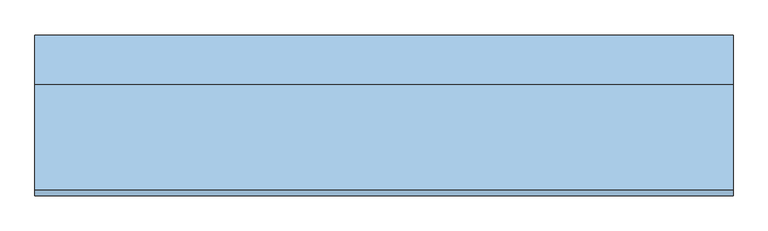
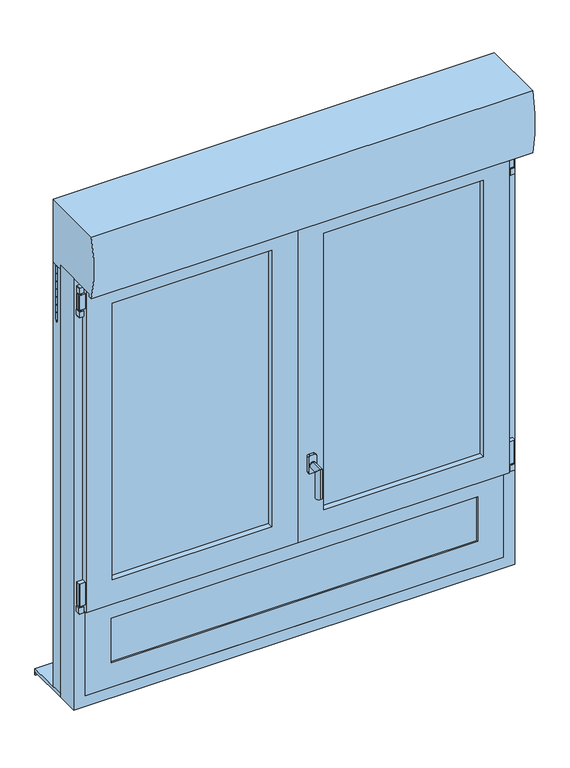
"""IFC4 building model written with IfcOpenShell, lengths in millimetres: window geometry, 7. OF2 ENR + Fixe en B PVC-ALU : OF2 130X165 (LXH) cm."""

from ifc_helpers import new_model, si_unit, point, frame, frame_2d, origin, place, context, project, spatial, polyline, circle_curve, ellipse_curve, trimmed, segment, composite_curve, outline, extrude, faceted_brep, source, transform, mapped, element, save
from ifc_brep_helpers import plane_surface, cylinder_surface, advanced_brep


def window_56807e02(model_context):
    return source(origin(), model_context, "Body", "SolidModel", [
        extrude(outline(composite_curve([segment(polyline([(2201.5409737, -676.4337219), (2219.5732983, -676.4337219)]), True, "CONTINUOUS"), segment(trimmed(circle_curve(frame_2d((2219.5732983, -678.4013973)), 1.9676754), [point((2219.5732983, -676.4337219))], [point((2221.5409737, -678.4013973))], False, "CARTESIAN"), True, "CONTINUOUS"), segment(polyline([(2221.5409737, -678.4013973), (2221.5409737, -689.440105)]), True, "CONTINUOUS"), segment(trimmed(circle_curve(frame_2d((2219.5473568, -689.440105)), 1.9936169), [point((2221.5409737, -689.440105))], [point((2219.5473568, -691.4337219))], False, "CARTESIAN"), True, "CONTINUOUS"), segment(polyline([(2219.5473568, -691.4337219), (2201.5409737, -691.4337219), (2201.5409737, -676.4337219)]), True, "CONTINUOUS")], self_intersect=False)), frame((0.0, -115.0338923, 0.0), z_axis=(0.0, 1.0, 0.0), x_axis=(0.0, 0.0, 1.0)), (0.0, 0.0, 1.0), 15.0),
        extrude(outline(composite_curve([segment(trimmed(circle_curve(frame_2d((-684.1542781, -107.5434807)), 5.0), [point((-679.1542781, -107.5434807))], [point((-689.1542781, -107.5434807))], False, "CARTESIAN"), True, "CONTINUOUS"), segment(trimmed(circle_curve(frame_2d((-684.1542781, -107.5434807)), 5.0), [point((-689.1542781, -107.5434807))], [point((-679.1542781, -107.5434807))], False, "CARTESIAN"), True, "CONTINUOUS")], self_intersect=False)), frame((0.0, 0.0, 2141.5409737), z_axis=(0.0, 0.0, 1.0), x_axis=(1.0, 0.0, 0.0)), (0.0, 0.0, 1.0), 60.0),
        extrude(outline(composite_curve([segment(polyline([(-671.4337219, -100.0434807), (-671.4337219, -115.0434807), (-689.4155445, -115.0434807)]), True, "CONTINUOUS"), segment(trimmed(circle_curve(frame_2d((-689.4155445, -113.0253033)), 2.0181775), [point((-689.4155445, -115.0434807))], [point((-691.4337219, -113.0253033))], False, "CARTESIAN"), True, "CONTINUOUS"), segment(polyline([(-691.4337219, -113.0253033), (-691.4337219, -102.001657)]), True, "CONTINUOUS"), segment(trimmed(circle_curve(frame_2d((-689.4755456, -102.001657)), 1.9581763), [point((-691.4337219, -102.001657))], [point((-689.4755456, -100.0434807))], False, "CARTESIAN"), True, "CONTINUOUS"), segment(polyline([(-689.4755456, -100.0434807), (-671.4337219, -100.0434807)]), True, "CONTINUOUS")], self_intersect=False)), frame((0.0, 0.0, 2147.2674355), z_axis=(0.0, 0.0, 1.0), x_axis=(1.0, 0.0, 0.0)), (0.0, 0.0, 1.0), 50.0),
        extrude(outline(composite_curve([segment(polyline([(2142.2674355, -691.6542781), (2123.9176409, -691.6542781)]), True, "CONTINUOUS"), segment(trimmed(circle_curve(frame_2d((2124.2411049, -689.6806086)), 2.0), [point((2123.9176409, -691.6542781))], [point((2122.2674355, -690.0040727))], False, "CARTESIAN"), True, "CONTINUOUS"), segment(polyline([(2122.2674355, -690.0040727), (2122.2674355, -678.6635279)]), True, "CONTINUOUS"), segment(trimmed(circle_curve(frame_2d((2124.2766853, -678.6635279)), 2.0092498), [point((2122.2674355, -678.6635279))], [point((2124.2766853, -676.6542781))], False, "CARTESIAN"), True, "CONTINUOUS"), segment(polyline([(2124.2766853, -676.6542781), (2142.2674355, -676.6542781), (2142.2674355, -691.6542781)]), True, "CONTINUOUS")], self_intersect=False)), frame((0.0, -115.0338923, 0.0), z_axis=(0.0, 1.0, 0.0), x_axis=(0.0, 0.0, 1.0)), (0.0, 0.0, 1.0), 15.0),
        extrude(outline(composite_curve([segment(trimmed(circle_curve(frame_2d((-684.2645562, -107.5434807)), 5.0), [point((-679.2645562, -107.5434807))], [point((-689.2645562, -107.5434807))], False, "CARTESIAN"), True, "CONTINUOUS"), segment(trimmed(circle_curve(frame_2d((-684.2645562, -107.5434807)), 5.0), [point((-689.2645562, -107.5434807))], [point((-679.2645562, -107.5434807))], False, "CARTESIAN"), True, "CONTINUOUS")], self_intersect=False)), frame((0.0, 0.0, 1148.448), z_axis=(0.0, 0.0, 1.0), x_axis=(1.0, 0.0, 0.0)), (0.0, 0.0, 1.0), 5.0),
        extrude(outline(composite_curve([segment(polyline([(1148.448, -691.7645562), (1130.0982054, -691.7645562)]), True, "CONTINUOUS"), segment(trimmed(circle_curve(frame_2d((1130.4216694, -689.7908867)), 2.0), [point((1130.0982054, -691.7645562))], [point((1128.448, -690.1143507))], False, "CARTESIAN"), True, "CONTINUOUS"), segment(polyline([(1128.448, -690.1143507), (1128.448, -678.7738059)]), True, "CONTINUOUS"), segment(trimmed(circle_curve(frame_2d((1130.4572498, -678.7738059)), 2.0092498), [point((1128.448, -678.7738059))], [point((1130.4572498, -676.7645562))], False, "CARTESIAN"), True, "CONTINUOUS"), segment(polyline([(1130.4572498, -676.7645562), (1148.448, -676.7645562), (1148.448, -691.7645562)]), True, "CONTINUOUS")], self_intersect=False)), frame((0.0, -115.0338923, 0.0), z_axis=(0.0, 1.0, 0.0), x_axis=(0.0, 0.0, 1.0)), (0.0, 0.0, 1.0), 15.0),
        extrude(outline(composite_curve([segment(polyline([(-671.544, -100.0434807), (-671.544, -115.0434807), (-689.5258225, -115.0434807)]), True, "CONTINUOUS"), segment(trimmed(circle_curve(frame_2d((-689.5258225, -113.0253033)), 2.0181775), [point((-689.5258225, -115.0434807))], [point((-691.544, -113.0253033))], False, "CARTESIAN"), True, "CONTINUOUS"), segment(polyline([(-691.544, -113.0253033), (-691.544, -102.001657)]), True, "CONTINUOUS"), segment(trimmed(circle_curve(frame_2d((-689.5858237, -102.001657)), 1.9581763), [point((-691.544, -102.001657))], [point((-689.5858237, -100.0434807))], False, "CARTESIAN"), True, "CONTINUOUS"), segment(polyline([(-689.5858237, -100.0434807), (-671.544, -100.0434807)]), True, "CONTINUOUS")], self_intersect=False)), frame((0.0, 0.0, 1153.448), z_axis=(0.0, 0.0, 1.0), x_axis=(1.0, 0.0, 0.0)), (0.0, 0.0, 1.0), 75.0),
        extrude(outline(composite_curve([segment(polyline([(2201.5409737, 676.4417219), (2201.5409737, 691.4417219), (2219.5473568, 691.4417219)]), True, "CONTINUOUS"), segment(trimmed(circle_curve(frame_2d((2219.5473568, 689.448105)), 1.9936169), [point((2219.5473568, 691.4417219))], [point((2221.5409737, 689.448105))], False, "CARTESIAN"), True, "CONTINUOUS"), segment(polyline([(2221.5409737, 689.448105), (2221.5409737, 678.4093973)]), True, "CONTINUOUS"), segment(trimmed(circle_curve(frame_2d((2219.5732983, 678.4093973)), 1.9676754), [point((2221.5409737, 678.4093973))], [point((2219.5732983, 676.4417219))], False, "CARTESIAN"), True, "CONTINUOUS"), segment(polyline([(2219.5732983, 676.4417219), (2201.5409737, 676.4417219)]), True, "CONTINUOUS")], self_intersect=False)), frame((0.0, -115.0338923, 0.0), z_axis=(0.0, 1.0, 0.0), x_axis=(0.0, 0.0, 1.0)), (0.0, 0.0, 1.0), 15.0),
        extrude(outline(composite_curve([segment(trimmed(circle_curve(frame_2d((684.1622781, -107.5434807)), 5.0), [point((679.1622781, -107.5434807))], [point((689.1622781, -107.5434807))], False, "CARTESIAN"), True, "CONTINUOUS"), segment(trimmed(circle_curve(frame_2d((684.1622781, -107.5434807)), 5.0), [point((689.1622781, -107.5434807))], [point((679.1622781, -107.5434807))], False, "CARTESIAN"), True, "CONTINUOUS")], self_intersect=False)), frame((0.0, 0.0, 2141.5409737), z_axis=(0.0, 0.0, 1.0), x_axis=(1.0, 0.0, 0.0)), (0.0, 0.0, 1.0), 60.0),
        extrude(outline(composite_curve([segment(polyline([(671.4417219, -100.0434807), (689.4835456, -100.0434807)]), True, "CONTINUOUS"), segment(trimmed(circle_curve(frame_2d((689.4835456, -102.001657)), 1.9581763), [point((689.4835456, -100.0434807))], [point((691.4417219, -102.001657))], False, "CARTESIAN"), True, "CONTINUOUS"), segment(polyline([(691.4417219, -102.001657), (691.4417219, -113.0253033)]), True, "CONTINUOUS"), segment(trimmed(circle_curve(frame_2d((689.4235445, -113.0253033)), 2.0181775), [point((691.4417219, -113.0253033))], [point((689.4235445, -115.0434807))], False, "CARTESIAN"), True, "CONTINUOUS"), segment(polyline([(689.4235445, -115.0434807), (671.4417219, -115.0434807), (671.4417219, -100.0434807)]), True, "CONTINUOUS")], self_intersect=False)), frame((0.0, 0.0, 2147.2674355), z_axis=(0.0, 0.0, 1.0), x_axis=(1.0, 0.0, 0.0)), (0.0, 0.0, 1.0), 50.0),
        extrude(outline(composite_curve([segment(polyline([(2142.2674355, 691.6622781), (2142.2674355, 676.6622781), (2124.2766853, 676.6622781)]), True, "CONTINUOUS"), segment(trimmed(circle_curve(frame_2d((2124.2766853, 678.6715279)), 2.0092498), [point((2124.2766853, 676.6622781))], [point((2122.2674355, 678.6715279))], False, "CARTESIAN"), True, "CONTINUOUS"), segment(polyline([(2122.2674355, 678.6715279), (2122.2674355, 690.0120727)]), True, "CONTINUOUS"), segment(trimmed(circle_curve(frame_2d((2124.2411049, 689.6886086)), 2.0), [point((2122.2674355, 690.0120727))], [point((2123.9176409, 691.6622781))], False, "CARTESIAN"), True, "CONTINUOUS"), segment(polyline([(2123.9176409, 691.6622781), (2142.2674355, 691.6622781)]), True, "CONTINUOUS")], self_intersect=False)), frame((0.0, -115.0338923, 0.0), z_axis=(0.0, 1.0, 0.0), x_axis=(0.0, 0.0, 1.0)), (0.0, 0.0, 1.0), 15.0),
        extrude(outline(composite_curve([segment(trimmed(circle_curve(frame_2d((684.2725562, -107.5434807)), 5.0), [point((679.2725562, -107.5434807))], [point((689.2725562, -107.5434807))], False, "CARTESIAN"), True, "CONTINUOUS"), segment(trimmed(circle_curve(frame_2d((684.2725562, -107.5434807)), 5.0), [point((689.2725562, -107.5434807))], [point((679.2725562, -107.5434807))], False, "CARTESIAN"), True, "CONTINUOUS")], self_intersect=False)), frame((0.0, 0.0, 1148.448), z_axis=(0.0, 0.0, 1.0), x_axis=(1.0, 0.0, 0.0)), (0.0, 0.0, 1.0), 5.0),
        extrude(outline(composite_curve([segment(polyline([(1148.448, 691.7725562), (1148.448, 676.7725562), (1130.4572498, 676.7725562)]), True, "CONTINUOUS"), segment(trimmed(circle_curve(frame_2d((1130.4572498, 678.7818059)), 2.0092498), [point((1130.4572498, 676.7725562))], [point((1128.448, 678.7818059))], False, "CARTESIAN"), True, "CONTINUOUS"), segment(polyline([(1128.448, 678.7818059), (1128.448, 690.1223507)]), True, "CONTINUOUS"), segment(trimmed(circle_curve(frame_2d((1130.4216694, 689.7988867)), 2.0), [point((1128.448, 690.1223507))], [point((1130.0982054, 691.7725562))], False, "CARTESIAN"), True, "CONTINUOUS"), segment(polyline([(1130.0982054, 691.7725562), (1148.448, 691.7725562)]), True, "CONTINUOUS")], self_intersect=False)), frame((0.0, -115.0338923, 0.0), z_axis=(0.0, 1.0, 0.0), x_axis=(0.0, 0.0, 1.0)), (0.0, 0.0, 1.0), 15.0),
        extrude(outline(composite_curve([segment(polyline([(671.552, -100.0434807), (689.5938237, -100.0434807)]), True, "CONTINUOUS"), segment(trimmed(circle_curve(frame_2d((689.5938237, -102.001657)), 1.9581763), [point((689.5938237, -100.0434807))], [point((691.552, -102.001657))], False, "CARTESIAN"), True, "CONTINUOUS"), segment(polyline([(691.552, -102.001657), (691.552, -113.0253033)]), True, "CONTINUOUS"), segment(trimmed(circle_curve(frame_2d((689.5338225, -113.0253033)), 2.0181775), [point((691.552, -113.0253033))], [point((689.5338225, -115.0434807))], False, "CARTESIAN"), True, "CONTINUOUS"), segment(polyline([(689.5338225, -115.0434807), (671.552, -115.0434807), (671.552, -100.0434807)]), True, "CONTINUOUS")], self_intersect=False)), frame((0.0, 0.0, 1153.448), z_axis=(0.0, 0.0, 1.0), x_axis=(1.0, 0.0, 0.0)), (0.0, 0.0, 1.0), 75.0),
        faceted_brep([(699.992, -28.9, 2250.0), (699.992, -100.02, 2250.0), (699.992, -100.02, 800.0), (699.992, -28.9, 800.0), (-700.008, -100.02, 2250.0), (-700.008, -100.02, 800.0), (663.416, -100.02, 836.576), (-663.432, -100.02, 836.576), (-663.432, -100.02, 2213.424), (663.416, -100.02, 2213.424), (-700.008, -28.9, 800.0), (-700.008, -28.9, 2250.0), (642.0903858, -28.9, 2192.0983858), (-642.1063858, -28.9, 2192.0983858), (-642.1063858, -28.9, 857.9016142), (642.0903858, -28.9, 857.9016142), (663.416, -44.648, 2213.424), (663.416, -44.648, 836.576), (-663.432, -44.648, 2213.424), (-663.432, -44.648, 836.576), (642.0903858, -44.648, 857.9016142), (-642.1063858, -44.648, 857.9016142), (-642.1063858, -44.648, 2192.0983858), (642.0903858, -44.648, 2192.0983858)], [[[0, 1, 2, 3]], [[1, 4, 5, 2], [6, 7, 8, 9]], [[3, 2, 5, 10]], [[3, 10, 11, 0], [12, 13, 14, 15]], [[9, 16, 17, 6]], [[16, 18, 19, 17], [20, 21, 22, 23]], [[6, 17, 19, 7]], [[23, 12, 15, 20]], [[20, 15, 14, 21]], [[10, 5, 4, 11]], [[7, 19, 18, 8]], [[21, 14, 13, 22]], [[11, 4, 1, 0]], [[8, 18, 16, 9]], [[22, 13, 12, 23]]]),
        faceted_brep([(-700.0, -100.02, 2250.0), (-700.0, -28.9, 2250.0), (-700.0, -28.9, 800.0), (-700.0, -100.02, 800.0), (700.0, -28.9, 2250.0), (700.0, -28.9, 800.0), (-642.0983858, -28.9, 857.9016142), (642.0983858, -28.9, 857.9016142), (642.0983858, -28.9, 2192.0983858), (-642.0983858, -28.9, 2192.0983858), (700.0, -100.02, 800.0), (700.0, -100.02, 2250.0), (-663.424, -100.02, 2213.424), (663.424, -100.02, 2213.424), (663.424, -100.02, 836.576), (-663.424, -100.02, 836.576), (-663.424, -44.648, 2213.424), (-663.424, -44.648, 836.576), (663.424, -44.648, 836.576), (663.424, -44.648, 2213.424), (-642.0983858, -44.648, 2192.0983858), (642.0983858, -44.648, 2192.0983858), (642.0983858, -44.648, 857.9016142), (-642.0983858, -44.648, 857.9016142)], [[[0, 1, 2, 3]], [[1, 4, 5, 2], [6, 7, 8, 9]], [[3, 2, 5, 10]], [[3, 10, 11, 0], [12, 13, 14, 15]], [[16, 12, 15, 17]], [[17, 15, 14, 18]], [[17, 18, 19, 16], [20, 21, 22, 23]], [[9, 20, 23, 6]], [[6, 23, 22, 7]], [[10, 5, 4, 11]], [[18, 14, 13, 19]], [[7, 22, 21, 8]], [[11, 4, 1, 0]], [[19, 13, 12, 16]], [[8, 21, 20, 9]]]),
        extrude(outline(polyline([(35.0, -44.7), (20.3, -44.7), (20.3, -100.3), (-20.3, -100.3), (-20.3, -44.7), (-35.0, -44.7), (-35.0, -28.9), (35.0, -28.9), (35.0, -44.7)])), frame((0.0, 0.0, 1150.8582947), z_axis=(0.0, 0.0, 1.0), x_axis=(1.0, 0.0, 0.0)), (0.0, 0.0, 1.0), 1064.7),
        faceted_brep([(0.004, -100.0434807, 2221.552), (0.004, -119.3239543, 2221.552), (0.004, -119.3239543, 1128.448), (0.004, -100.0434807, 1128.448), (-82.1974957, -119.3239543, 2139.3505043), (-82.1974957, -100.019954, 2139.3505043), (-82.1974957, -100.019954, 1210.6494957), (-82.1974957, -119.3239543, 1210.6494957), (-59.9393299, -100.019954, 2161.6086701), (-59.9393299, -48.2039543, 2161.6086701), (-59.9393299, -48.2039543, 1188.3913299), (-59.9393299, -100.019954, 1188.3913299), (-29.4496142, -48.2039543, 2192.0983858), (-29.4496142, -44.648, 2192.0983858), (-29.4496142, -44.648, 1157.9016142), (-29.4496142, -48.2039543, 1157.9016142), (-20.316, -44.648, 2201.232), (-20.316, -100.0434807, 2201.232), (-20.316, -100.0434807, 1148.768), (-20.316, -44.648, 1148.768), (-671.552, -119.3239543, 1128.448), (-671.552, -100.0434807, 1128.448), (-589.3505043, -100.019954, 1210.6494957), (-589.3505043, -119.3239543, 1210.6494957), (-611.6086701, -48.2039543, 1188.3913299), (-611.6086701, -100.019954, 1188.3913299), (-642.0983858, -44.648, 1157.9016142), (-642.0983858, -48.2039543, 1157.9016142), (-651.232, -100.0434807, 1148.768), (-651.232, -44.648, 1148.768), (-671.552, -119.3239543, 2221.552), (-671.552, -100.0434807, 2221.552), (-589.3505043, -100.019954, 2139.3505043), (-589.3505043, -119.3239543, 2139.3505043), (-611.6086701, -48.2039543, 2161.6086701), (-611.6086701, -100.019954, 2161.6086701), (-642.0983858, -44.648, 2192.0983858), (-642.0983858, -48.2039543, 2192.0983858), (-651.232, -100.0434807, 2201.232), (-651.232, -44.648, 2201.232)], [[[0, 1, 2, 3]], [[4, 5, 6, 7]], [[8, 9, 10, 11]], [[12, 13, 14, 15]], [[16, 17, 18, 19]], [[3, 2, 20, 21]], [[7, 6, 22, 23]], [[11, 10, 24, 25]], [[15, 14, 26, 27]], [[19, 18, 28, 29]], [[21, 20, 30, 31]], [[23, 22, 32, 33]], [[25, 24, 34, 35]], [[27, 26, 36, 37]], [[29, 28, 38, 39]], [[3, 21, 31, 0], [17, 38, 28, 18]], [[31, 30, 1, 0]], [[1, 30, 20, 2], [7, 23, 33, 4]], [[33, 32, 5, 4]], [[11, 25, 35, 8], [5, 32, 22, 6]], [[35, 34, 9, 8]], [[15, 27, 37, 12], [9, 34, 24, 10]], [[37, 36, 13, 12]], [[19, 29, 39, 16], [13, 36, 26, 14]], [[39, 38, 17, 16]]]),
        faceted_brep([(-611.6086701, -100.019954, 2161.6086701), (-611.6086701, -48.2039543, 2161.6086701), (-611.6086701, -48.2039543, 1188.3913299), (-611.6086701, -100.019954, 1188.3913299), (-636.5514701, -48.2039543, 2186.5514701), (-636.5514701, -28.7475756, 2186.5514701), (-636.5514701, -28.7475756, 1163.4485299), (-636.5514701, -48.2039543, 1163.4485299), (-585.3393386, -28.7475756, 2135.3393386), (-585.3393386, -41.9786213, 2135.3393386), (-585.3393386, -41.9786213, 1214.6606614), (-585.3393386, -28.7475756, 1214.6606614), (-589.5240492, -72.9786213, 2139.5240492), (-589.5240492, -96.019954, 2139.5240492), (-589.5240492, -96.019954, 1210.4759508), (-589.5240492, -72.9786213, 1210.4759508), (-59.9393299, -48.2039543, 1188.3913299), (-59.9393299, -100.019954, 1188.3913299), (-34.9965299, -28.7475756, 1163.4485299), (-34.9965299, -48.2039543, 1163.4485299), (-86.2086614, -41.9786213, 1214.6606614), (-86.2086614, -28.7475756, 1214.6606614), (-82.0239508, -96.019954, 1210.4759508), (-82.0239508, -72.9786213, 1210.4759508), (-59.9393299, -48.2039543, 2161.6086701), (-59.9393299, -100.019954, 2161.6086701), (-34.9965299, -28.7475756, 2186.5514701), (-34.9965299, -48.2039543, 2186.5514701), (-86.2086614, -41.9786213, 2135.3393386), (-86.2086614, -28.7475756, 2135.3393386), (-82.0239508, -96.019954, 2139.5240492), (-82.0239508, -72.9786213, 2139.5240492), (-603.4175117, -100.019954, 2153.4175117), (-68.1304883, -100.019954, 2153.4175117), (-68.1304883, -100.019954, 1196.5824883), (-603.4175117, -100.019954, 1196.5824883), (-603.4175117, -72.9786213, 2153.4175117), (-68.1304883, -72.9786213, 2153.4175117), (-68.1304883, -72.9786213, 1196.5824883), (-603.4175117, -72.9786213, 1196.5824883), (-603.4175117, -96.019954, 2153.4175117), (-603.4175117, -96.019954, 1196.5824883), (-603.4175117, -68.9786213, 2153.4175117), (-603.4175117, -68.9786213, 1196.5824883), (-68.1304883, -96.019954, 1196.5824883), (-68.1304883, -68.9786213, 1196.5824883), (-68.1304883, -96.019954, 2153.4175117), (-68.1304883, -68.9786213, 2153.4175117), (-586.1974041, -68.9786213, 2136.1974041), (-85.3505959, -68.9786213, 2136.1974041), (-85.3505959, -68.9786213, 1213.8025959), (-586.1974041, -68.9786213, 1213.8025959), (-603.4175117, -41.9786213, 2153.4175117), (-603.4175117, -45.9786213, 2153.4175117), (-603.4175117, -45.9786213, 1196.5824883), (-603.4175117, -41.9786213, 1196.5824883), (-586.1974041, -45.9786213, 2136.1974041), (-586.1974041, -45.9786213, 1213.8025959), (-68.1304883, -45.9786213, 1196.5824883), (-68.1304883, -41.9786213, 1196.5824883), (-85.3505959, -45.9786213, 1213.8025959), (-68.1304883, -45.9786213, 2153.4175117), (-68.1304883, -41.9786213, 2153.4175117), (-85.3505959, -45.9786213, 2136.1974041)], [[[0, 1, 2, 3]], [[4, 5, 6, 7]], [[8, 9, 10, 11]], [[12, 13, 14, 15]], [[3, 2, 16, 17]], [[7, 6, 18, 19]], [[11, 10, 20, 21]], [[15, 14, 22, 23]], [[17, 16, 24, 25]], [[19, 18, 26, 27]], [[21, 20, 28, 29]], [[23, 22, 30, 31]], [[3, 17, 25, 0], [32, 33, 34, 35]], [[25, 24, 1, 0]], [[7, 19, 27, 4], [1, 24, 16, 2]], [[27, 26, 5, 4]], [[5, 26, 18, 6], [11, 21, 29, 8]], [[29, 28, 9, 8]], [[36, 37, 38, 39], [15, 23, 31, 12]], [[31, 30, 13, 12]], [[40, 32, 35, 41]], [[42, 36, 39, 43]], [[41, 35, 34, 44]], [[43, 39, 38, 45]], [[44, 34, 33, 46]], [[45, 38, 37, 47]], [[41, 44, 46, 40], [13, 30, 22, 14]], [[46, 33, 32, 40]], [[43, 45, 47, 42], [48, 49, 50, 51]], [[47, 37, 36, 42]], [[52, 53, 54, 55]], [[56, 48, 51, 57]], [[55, 54, 58, 59]], [[57, 51, 50, 60]], [[59, 58, 61, 62]], [[60, 50, 49, 63]], [[55, 59, 62, 52], [9, 28, 20, 10]], [[62, 61, 53, 52]], [[53, 61, 58, 54], [57, 60, 63, 56]], [[63, 49, 48, 56]]]),
        extrude(outline(polyline([(-603.4, -100.019954), (-603.4, -96.019954), (-68.1, -96.019954), (-68.1, -100.019954), (-603.4, -100.019954)])), frame((0.0, 0.0, 1196.5824883), z_axis=(0.0, 0.0, 1.0), x_axis=(1.0, 0.0, 0.0)), (0.0, 0.0, 1.0), 956.8350233),
        extrude(outline(polyline([(-603.4, -72.9786213), (-603.4, -68.9786213), (-68.1, -68.9786213), (-68.1, -72.9786213), (-603.4, -72.9786213)])), frame((0.0, 0.0, 1196.5824883), z_axis=(0.0, 0.0, 1.0), x_axis=(1.0, 0.0, 0.0)), (0.0, 0.0, 1.0), 956.8350233),
        extrude(outline(polyline([(-603.4, -45.9786213), (-603.4, -41.9786213), (-68.1, -41.9786213), (-68.1, -45.9786213), (-603.4, -45.9786213)])), frame((0.0, 0.0, 1196.5824883), z_axis=(0.0, 0.0, 1.0), x_axis=(1.0, 0.0, 0.0)), (0.0, 0.0, 1.0), 956.8350233),
        extrude(outline(polyline([(603.4, -96.019954), (603.4, -100.019954), (68.1, -100.019954), (68.1, -96.019954), (603.4, -96.019954)])), frame((0.0, 0.0, 1196.5824883), z_axis=(0.0, 0.0, 1.0), x_axis=(1.0, 0.0, 0.0)), (0.0, 0.0, 1.0), 956.8350233),
        extrude(outline(polyline([(603.4, -68.9786213), (603.4, -72.9786213), (68.1, -72.9786213), (68.1, -68.9786213), (603.4, -68.9786213)])), frame((0.0, 0.0, 1196.5824883), z_axis=(0.0, 0.0, 1.0), x_axis=(1.0, 0.0, 0.0)), (0.0, 0.0, 1.0), 956.8350233),
        extrude(outline(polyline([(603.4, -41.9786213), (603.4, -45.9786213), (68.1, -45.9786213), (68.1, -41.9786213), (603.4, -41.9786213)])), frame((0.0, 0.0, 1196.5824883), z_axis=(0.0, 0.0, 1.0), x_axis=(1.0, 0.0, 0.0)), (0.0, 0.0, 1.0), 956.8350233),
        faceted_brep([(611.6086701, -48.2039543, 2161.6086701), (611.6086701, -100.019954, 2161.6086701), (611.6086701, -100.019954, 1188.3913299), (611.6086701, -48.2039543, 1188.3913299), (636.5514701, -28.7475756, 2186.5514701), (636.5514701, -48.2039543, 2186.5514701), (636.5514701, -48.2039543, 1163.4485299), (636.5514701, -28.7475756, 1163.4485299), (585.3393386, -41.9786213, 2135.3393386), (585.3393386, -28.7475756, 2135.3393386), (585.3393386, -28.7475756, 1214.6606614), (585.3393386, -41.9786213, 1214.6606614), (589.5240492, -96.019954, 2139.5240492), (589.5240492, -72.9786213, 2139.5240492), (589.5240492, -72.9786213, 1210.4759508), (589.5240492, -96.019954, 1210.4759508), (59.9393299, -100.019954, 1188.3913299), (59.9393299, -48.2039543, 1188.3913299), (34.9965299, -48.2039543, 1163.4485299), (34.9965299, -28.7475756, 1163.4485299), (86.2086614, -28.7475756, 1214.6606614), (86.2086614, -41.9786213, 1214.6606614), (82.0239508, -72.9786213, 1210.4759508), (82.0239508, -96.019954, 1210.4759508), (59.9393299, -100.019954, 2161.6086701), (59.9393299, -48.2039543, 2161.6086701), (34.9965299, -48.2039543, 2186.5514701), (34.9965299, -28.7475756, 2186.5514701), (86.2086614, -28.7475756, 2135.3393386), (86.2086614, -41.9786213, 2135.3393386), (82.0239508, -72.9786213, 2139.5240492), (82.0239508, -96.019954, 2139.5240492), (603.4175117, -100.019954, 1196.5824883), (68.1304883, -100.019954, 1196.5824883), (68.1304883, -100.019954, 2153.4175117), (603.4175117, -100.019954, 2153.4175117), (603.4175117, -72.9786213, 1196.5824883), (68.1304883, -72.9786213, 1196.5824883), (68.1304883, -72.9786213, 2153.4175117), (603.4175117, -72.9786213, 2153.4175117), (603.4175117, -96.019954, 2153.4175117), (603.4175117, -96.019954, 1196.5824883), (603.4175117, -68.9786213, 2153.4175117), (603.4175117, -68.9786213, 1196.5824883), (68.1304883, -96.019954, 1196.5824883), (68.1304883, -68.9786213, 1196.5824883), (68.1304883, -96.019954, 2153.4175117), (68.1304883, -68.9786213, 2153.4175117), (586.1974041, -68.9786213, 1213.8025959), (85.3505959, -68.9786213, 1213.8025959), (85.3505959, -68.9786213, 2136.1974041), (586.1974041, -68.9786213, 2136.1974041), (603.4175117, -45.9786213, 2153.4175117), (603.4175117, -41.9786213, 2153.4175117), (603.4175117, -41.9786213, 1196.5824883), (603.4175117, -45.9786213, 1196.5824883), (586.1974041, -45.9786213, 2136.1974041), (586.1974041, -45.9786213, 1213.8025959), (68.1304883, -41.9786213, 1196.5824883), (68.1304883, -45.9786213, 1196.5824883), (85.3505959, -45.9786213, 1213.8025959), (68.1304883, -41.9786213, 2153.4175117), (68.1304883, -45.9786213, 2153.4175117), (85.3505959, -45.9786213, 2136.1974041)], [[[0, 1, 2, 3]], [[4, 5, 6, 7]], [[8, 9, 10, 11]], [[12, 13, 14, 15]], [[3, 2, 16, 17]], [[7, 6, 18, 19]], [[11, 10, 20, 21]], [[15, 14, 22, 23]], [[17, 16, 24, 25]], [[19, 18, 26, 27]], [[21, 20, 28, 29]], [[23, 22, 30, 31]], [[1, 24, 16, 2], [32, 33, 34, 35]], [[25, 24, 1, 0]], [[5, 26, 18, 6], [3, 17, 25, 0]], [[27, 26, 5, 4]], [[7, 19, 27, 4], [9, 28, 20, 10]], [[29, 28, 9, 8]], [[36, 37, 38, 39], [13, 30, 22, 14]], [[31, 30, 13, 12]], [[35, 40, 41, 32]], [[39, 42, 43, 36]], [[32, 41, 44, 33]], [[36, 43, 45, 37]], [[33, 44, 46, 34]], [[37, 45, 47, 38]], [[40, 46, 44, 41], [15, 23, 31, 12]], [[34, 46, 40, 35]], [[42, 47, 45, 43], [48, 49, 50, 51]], [[38, 47, 42, 39]], [[52, 53, 54, 55]], [[51, 56, 57, 48]], [[55, 54, 58, 59]], [[48, 57, 60, 49]], [[59, 58, 61, 62]], [[49, 60, 63, 50]], [[53, 61, 58, 54], [11, 21, 29, 8]], [[62, 61, 53, 52]], [[55, 59, 62, 52], [56, 63, 60, 57]], [[50, 63, 56, 51]]]),
        faceted_brep([(-0.004, -119.3239543, 2221.552), (-0.004, -100.0434807, 2221.552), (-0.004, -100.0434807, 1128.448), (-0.004, -119.3239543, 1128.448), (82.1974957, -100.019954, 2139.3505043), (82.1974957, -119.3239543, 2139.3505043), (82.1974957, -119.3239543, 1210.6494957), (82.1974957, -100.019954, 1210.6494957), (59.9393299, -48.2039543, 2161.6086701), (59.9393299, -100.019954, 2161.6086701), (59.9393299, -100.019954, 1188.3913299), (59.9393299, -48.2039543, 1188.3913299), (29.4496142, -44.648, 2192.0983858), (29.4496142, -48.2039543, 2192.0983858), (29.4496142, -48.2039543, 1157.9016142), (29.4496142, -44.648, 1157.9016142), (20.316, -100.0434807, 2201.232), (20.316, -44.648, 2201.232), (20.316, -44.648, 1148.768), (20.316, -100.0434807, 1148.768), (671.552, -100.0434807, 1128.448), (671.552, -119.3239543, 1128.448), (589.3505043, -119.3239543, 1210.6494957), (589.3505043, -100.019954, 1210.6494957), (611.6086701, -100.019954, 1188.3913299), (611.6086701, -48.2039543, 1188.3913299), (642.0983858, -48.2039543, 1157.9016142), (642.0983858, -44.648, 1157.9016142), (651.232, -44.648, 1148.768), (651.232, -100.0434807, 1148.768), (671.552, -100.0434807, 2221.552), (671.552, -119.3239543, 2221.552), (589.3505043, -119.3239543, 2139.3505043), (589.3505043, -100.019954, 2139.3505043), (611.6086701, -100.019954, 2161.6086701), (611.6086701, -48.2039543, 2161.6086701), (642.0983858, -48.2039543, 2192.0983858), (642.0983858, -44.648, 2192.0983858), (651.232, -44.648, 2201.232), (651.232, -100.0434807, 2201.232)], [[[0, 1, 2, 3]], [[4, 5, 6, 7]], [[8, 9, 10, 11]], [[12, 13, 14, 15]], [[16, 17, 18, 19]], [[3, 2, 20, 21]], [[7, 6, 22, 23]], [[11, 10, 24, 25]], [[15, 14, 26, 27]], [[19, 18, 28, 29]], [[21, 20, 30, 31]], [[23, 22, 32, 33]], [[25, 24, 34, 35]], [[27, 26, 36, 37]], [[29, 28, 38, 39]], [[1, 30, 20, 2], [19, 29, 39, 16]], [[31, 30, 1, 0]], [[3, 21, 31, 0], [5, 32, 22, 6]], [[33, 32, 5, 4]], [[9, 34, 24, 10], [7, 23, 33, 4]], [[35, 34, 9, 8]], [[13, 36, 26, 14], [11, 25, 35, 8]], [[37, 36, 13, 12]], [[17, 38, 28, 18], [15, 27, 37, 12]], [[39, 38, 17, 16]]]),
        extrude(outline(composite_curve([segment(polyline([(-186.3991192, 2240.3409737), (-197.3316724, 2240.3409737)]), True, "CONTINUOUS"), segment(trimmed(circle_curve(frame_2d((189.1050523, 2343.6204869)), 400.0), [point((-197.3316724, 2240.3409737))], [point((-197.3316724, 2446.9))], False, "CARTESIAN"), True, "CONTINUOUS"), segment(polyline([(-197.3316724, 2446.9), (13.0999994, 2446.9), (13.0999994, 2236.0216226), (-4.9499979, 2236.0216226), (-4.9499979, 2234.2216225), (-2.7215215, 2234.2216225), (-2.7215215, 2209.9791617), (-4.9499979, 2209.9791617), (-4.9499979, 2208.1791616), (-2.7215215, 2208.1791616), (-2.7215215, 2183.9367008), (-4.9499979, 2183.9367008), (-4.9499979, 2182.1367006), (-2.7215215, 2182.1367006), (-2.7215215, 2157.8942398), (-4.9499979, 2157.8942398), (-4.9499979, 2156.0942397), (-2.7215215, 2156.0942397), (-2.7215215, 2131.8517789), (-4.9499979, 2131.8517789), (-4.9499979, 2130.0517788), (-2.7215215, 2130.0517788), (-2.7215215, 2105.809318), (-4.9499979, 2105.809318), (-4.9499979, 2104.0093179), (-2.7215215, 2104.0093179), (-2.7215215, 2079.7668571), (-4.9499979, 2079.7668571), (-4.9499979, 2077.966857), (-2.7215215, 2077.966857), (-2.7215215, 2053.7243961), (-4.9499979, 2053.7243961), (-4.9499979, 2051.9243963), (-3.044091, 2051.9243963), (-3.044091, 2048.977424), (-6.4, 2045.6232688), (-9.8999992, 2048.9774251), (-9.8999992, 2051.9243963), (-7.7499979, 2051.9243963), (-7.7499979, 2053.7243961), (-9.9999979, 2053.7243961), (-9.9999979, 2077.9668572), (-7.7499979, 2077.9668572), (-7.7499979, 2079.7668571), (-9.9999979, 2079.7668571), (-9.9999979, 2104.0093181), (-7.7499979, 2104.0093181), (-7.7499979, 2105.809318), (-9.9999979, 2105.809318), (-9.9999979, 2130.051779), (-7.7499979, 2130.051779), (-7.7499979, 2131.8517789), (-9.9999979, 2131.8517789), (-9.9999979, 2156.09424), (-7.7499979, 2156.09424), (-7.7499979, 2157.8942398), (-9.9999979, 2157.8942398), (-9.9999979, 2182.1367009), (-7.7499979, 2182.1367009), (-7.7499979, 2183.9367008), (-9.9999979, 2183.9367008), (-9.9999979, 2208.1791618), (-7.7499979, 2208.1791618), (-7.7499979, 2209.9791617), (-9.9999979, 2209.9791617), (-9.9999979, 2234.2216227), (-7.7499979, 2234.2216227), (-7.7499979, 2236.0216226), (-28.9, 2236.0216226), (-28.9, 2250.0), (-186.3991192, 2250.0), (-186.3991192, 2240.3409737)]), True, "CONTINUOUS")], self_intersect=False)), frame((-700.008, 0.0, 0.0), z_axis=(1.0, 0.0, 0.0), x_axis=(0.0, 1.0, 0.0)), (0.0, 0.0, 1.0), 1400.008),
        advanced_brep(
        [(41.6731873, -129.3239543, 1392.2518349), (41.6731873, -129.3239543, 1372.2518349), (41.6731873, -133.0531938, 1372.2518349), (41.6731873, -133.0531938, 1392.2518349), (41.6731873, -173.0531938, 1392.2518349), (41.6731873, -153.0531938, 1372.2518349), (41.6731873, -173.0531938, 1292.2518349), (41.6731873, -153.0531938, 1292.2518349)],
        [
            (0, 1, circle_curve(frame((41.6731873, -129.3239543, 1382.2518349), z_axis=(0.0, 1.0, 0.0), x_axis=(0.0, 0.0, -1.0)), 10.0)),
            (1, 0, circle_curve(frame((41.6731873, -129.3239543, 1382.2518349), z_axis=(0.0, 1.0, 0.0), x_axis=(0.0, 0.0, -1.0)), 10.0)),
            (2, 3, circle_curve(frame((41.6731873, -133.0531938, 1382.2518349), z_axis=(0.0, -1.0, 0.0), x_axis=(0.0, 0.0, -1.0)), 10.0)),
            (3, 4),
            (4, 5, ellipse_curve(frame((41.6731873, -163.0531938, 1382.2518349), z_axis=(0.0, 0.7071067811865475, 0.7071067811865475), x_axis=(0.0, 0.7071067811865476, -0.7071067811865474)), 14.1421356, 10.0)),
            (5, 2),
            (3, 2, circle_curve(frame((41.6731873, -133.0531938, 1382.2518349), z_axis=(0.0, -1.0, 0.0), x_axis=(0.0, 0.0, -1.0)), 10.0)),
            (5, 4, ellipse_curve(frame((41.6731873, -163.0531938, 1382.2518349), z_axis=(0.0, 0.7071067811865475, 0.7071067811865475), x_axis=(0.0, 0.7071067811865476, -0.7071067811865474)), 14.1421356, 10.0)),
            (6, 7, circle_curve(frame((41.6731873, -163.0531938, 1292.2518349), z_axis=(0.0, 0.0, -1.0), x_axis=(0.0, 1.0, 0.0)), 10.0)),
            (7, 6, circle_curve(frame((41.6731873, -163.0531938, 1292.2518349), z_axis=(0.0, 0.0, -1.0), x_axis=(0.0, 1.0, 0.0)), 10.0)),
            (4, 6),
            (7, 5),
            (0, 3),
            (2, 1),
        ],
        [
            plane_surface(frame((53.896, -129.3239543, 1382.2518349), z_axis=(0.0, 1.0, 0.0), x_axis=(1.0, 0.0, 0.0))),
            cylinder_surface(frame((41.6731873, -133.0531938, 1382.2518349), z_axis=(0.0, 1.0, 0.0), x_axis=(0.0, 0.0, -1.0)), 10.0),
            plane_surface(frame((53.896, -163.0531938, 1292.2518349), z_axis=(0.0, 0.0, -1.0), x_axis=(1.0, 0.0, 0.0))),
            cylinder_surface(frame((41.6731873, -163.0531938, 1382.2518349), z_axis=(0.0, 0.0, 1.0), x_axis=(0.0, 1.0, 0.0)), 10.0),
            cylinder_surface(frame((41.6731873, -129.3239543, 1382.2518349), z_axis=(0.0, 1.0, 0.0), x_axis=(0.0, 0.0, -1.0)), 10.0),
        ],
        [
            (0, [[1, 2]]),
            (1, [[3, 4, 5, 6]]),
            (1, [[7, -6, 8, -4]]),
            (2, [[9, 10]]),
            (3, [[-5, 11, -10, 12]]),
            (3, [[-8, -12, -9, -11]]),
            (4, [[-1, 13, -3, 14]]),
            (4, [[-2, -14, -7, -13]]),
        ],
    ),
        extrude(outline(composite_curve([segment(polyline([(1414.448, 48.896), (1414.448, 33.896)]), True, "CONTINUOUS"), segment(trimmed(circle_curve(frame_2d((1409.448, 33.896)), 5.0), [point((1414.448, 33.896))], [point((1409.448, 28.896))], False, "CARTESIAN"), True, "CONTINUOUS"), segment(polyline([(1409.448, 28.896), (1359.448, 28.896)]), True, "CONTINUOUS"), segment(trimmed(circle_curve(frame_2d((1359.448, 33.896)), 5.0), [point((1359.448, 28.896))], [point((1354.448, 33.896))], False, "CARTESIAN"), True, "CONTINUOUS"), segment(polyline([(1354.448, 33.896), (1354.448, 48.896)]), True, "CONTINUOUS"), segment(trimmed(circle_curve(frame_2d((1359.448, 48.896)), 5.0), [point((1354.448, 48.896))], [point((1359.448, 53.896))], False, "CARTESIAN"), True, "CONTINUOUS"), segment(polyline([(1359.448, 53.896), (1409.448, 53.896)]), True, "CONTINUOUS"), segment(trimmed(circle_curve(frame_2d((1409.448, 48.896)), 5.0), [point((1409.448, 53.896))], [point((1414.448, 48.896))], False, "CARTESIAN"), True, "CONTINUOUS")], self_intersect=False)), frame((0.0, -129.3239543, 0.0), z_axis=(0.0, 1.0, 0.0), x_axis=(0.0, 0.0, 1.0)), (0.0, 0.0, 1.0), 10.0),
        extrude(outline(polyline([(-28.9, 800.0), (-28.9, 812.9639252), (113.0, 809.77529), (113.0, 790.0), (110.0, 790.0), (110.0, 800.0), (-28.9, 800.0)])), frame((-700.0, 0.0, 0.0), z_axis=(1.0, 0.0, 0.0), x_axis=(0.0, 1.0, 0.0)), (0.0, 0.0, 1.0), 1400.0),
        extrude(outline(polyline([(-699.0, -28.9), (-700.0, -28.9), (-700.0, 13.1), (-699.0, 13.1), (-699.0, 2.1), (-679.0, 2.1), (-679.0, -0.9), (-699.0, -0.9), (-699.0, -11.9), (-679.0, -11.9), (-679.0, -14.9), (-699.0, -14.9), (-699.0, -28.9)])), frame((0.0, 0.0, 812.9639252), z_axis=(0.0, 0.0, 1.0), x_axis=(1.0, 0.0, 0.0)), (0.0, 0.0, 1.0), 1423.1),
        extrude(outline(polyline([(699.0, -28.9), (699.0, -14.9), (679.0, -14.9), (679.0, -11.9), (699.0, -11.9), (699.0, -0.9), (679.0, -0.9), (679.0, 2.1), (699.0, 2.1), (699.0, 13.1), (700.0, 13.1), (700.0, -28.9), (699.0, -28.9)])), frame((0.0, 0.0, 812.9639252), z_axis=(0.0, 0.0, 1.0), x_axis=(1.0, 0.0, 0.0)), (0.0, 0.0, 1.0), 1423.1),
        extrude(outline(polyline([(595.3, -91.36618), (595.3, -95.36618), (-595.3, -95.36618), (-595.3, -91.36618), (595.3, -91.36618)])), frame((0.0, 0.0, 904.6913195), z_axis=(0.0, 0.0, 1.0), x_axis=(1.0, 0.0, 0.0)), (0.0, 0.0, 1.0), 177.9669753),
        extrude(outline(polyline([(595.3, -67.36618), (595.3, -71.36618), (-595.3, -71.36618), (-595.3, -67.36618), (595.3, -67.36618)])), frame((0.0, 0.0, 904.6913195), z_axis=(0.0, 0.0, 1.0), x_axis=(1.0, 0.0, 0.0)), (0.0, 0.0, 1.0), 177.9669753),
        faceted_brep([(-663.5086805, -100.96618, 836.4913195), (-663.5086805, -44.56618, 836.4913195), (663.5086805, -44.56618, 836.4913195), (663.5086805, -100.96618, 836.4913195), (663.5086805, -44.56618, 1150.8582947), (663.5086805, -100.96618, 1150.8582947), (-663.5086805, -44.56618, 1150.8582947), (581.4086805, -44.56618, 1068.7582947), (-581.4086805, -44.56618, 1068.7582947), (-581.4086805, -44.56618, 918.5913195), (581.4086805, -44.56618, 918.5913195), (-663.5086805, -100.96618, 1150.8582947), (581.4086805, -100.96618, 918.5913195), (-581.4086805, -100.96618, 918.5913195), (-581.4086805, -100.96618, 1068.7582947), (581.4086805, -100.96618, 1068.7582947), (-581.4086805, -95.36618, 918.5913195), (581.4086805, -95.36618, 918.5913195), (581.4086805, -95.36618, 1068.7582947), (595.3086805, -95.36618, 904.6913195), (-595.3086805, -95.36618, 904.6913195), (-595.3086805, -95.36618, 1082.6582947), (595.3086805, -95.36618, 1082.6582947), (-581.4086805, -95.36618, 1068.7582947), (-595.3086805, -91.36618, 904.6913195), (595.3086805, -91.36618, 904.6913195), (595.3086805, -91.36618, 1082.6582947), (-595.3086805, -91.36618, 1082.6582947), (581.4086805, -91.36618, 918.5913195), (-581.4086805, -91.36618, 918.5913195), (-581.4086805, -91.36618, 1068.7582947), (581.4086805, -91.36618, 1068.7582947), (-581.4086805, -71.36618, 918.5913195), (581.4086805, -71.36618, 918.5913195), (581.4086805, -71.36618, 1068.7582947), (595.3086805, -71.36618, 904.6913195), (-595.3086805, -71.36618, 904.6913195), (-595.3086805, -71.36618, 1082.6582947), (595.3086805, -71.36618, 1082.6582947), (-581.4086805, -71.36618, 1068.7582947), (-595.3086805, -67.36618, 904.6913195), (595.3086805, -67.36618, 904.6913195), (595.3086805, -67.36618, 1082.6582947), (-595.3086805, -67.36618, 1082.6582947), (581.4086805, -67.36618, 918.5913195), (-581.4086805, -67.36618, 918.5913195), (-581.4086805, -67.36618, 1068.7582947), (581.4086805, -67.36618, 1068.7582947)], [[[0, 1, 2, 3]], [[3, 2, 4, 5]], [[2, 1, 6, 4], [7, 8, 9, 10]], [[5, 11, 0, 3], [12, 13, 14, 15]], [[16, 13, 12, 17]], [[17, 12, 15, 18]], [[19, 20, 21, 22], [18, 23, 16, 17]], [[24, 20, 19, 25]], [[25, 19, 22, 26]], [[26, 27, 24, 25], [28, 29, 30, 31]], [[32, 29, 28, 33]], [[33, 28, 31, 34]], [[35, 36, 37, 38], [34, 39, 32, 33]], [[40, 36, 35, 41]], [[41, 35, 38, 42]], [[42, 43, 40, 41], [44, 45, 46, 47]], [[9, 45, 44, 10]], [[10, 44, 47, 7]], [[11, 6, 1, 0]], [[23, 14, 13, 16]], [[27, 21, 20, 24]], [[39, 30, 29, 32]], [[43, 37, 36, 40]], [[8, 46, 45, 9]], [[5, 4, 6, 11]], [[18, 15, 14, 23]], [[26, 22, 21, 27]], [[34, 31, 30, 39]], [[42, 38, 37, 43]], [[7, 47, 46, 8]]]),
    ])


if __name__ == "__main__":
    model = new_model("IFC4")
    model_context = context("Model", 3, world=origin())
    ifc_project = project(units=[si_unit("LENGTHUNIT", "METRE", prefix="MILLI")], contexts=[model_context])
    site = spatial("IfcSite", under=ifc_project)
    building = spatial("IfcBuilding", under=site)
    placement = place(None, origin())
    window_shape = window_56807e02(model_context)
    element("IfcWindow", 1, ObjectType="7. OF2 ENR + Fixe en B PVC-ALU : OF2 130X165 (LXH) cm", at=placement, inside=building, context=model_context, shape_type="MappedRepresentation", body=[
        mapped(window_shape, transform((0.0, 0.0, 0.0), x_axis=(1.0, 0.0, 0.0), y_axis=(0.0, 1.0, 0.0), z_axis=(0.0, 0.0, 1.0))),
    ])
    save(model, "model.ifc")
